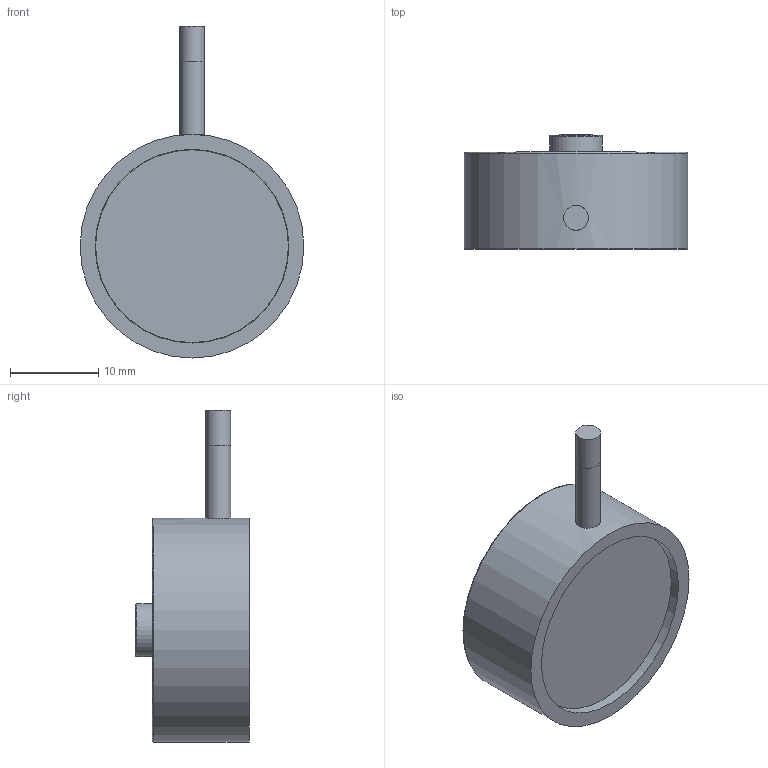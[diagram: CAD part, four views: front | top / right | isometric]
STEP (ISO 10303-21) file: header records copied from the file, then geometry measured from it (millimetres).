
FILE_DESCRIPTION(/* description */ ('Alibre Inc.'),/* implementation_level */ '2;1');
FILE_NAME(/* name */ 'export0',/* time_stamp */ '2015-03-05T10:37:38+01:00',/* author */ (''),/* organization */ (''),/* preprocessor_version */ 'ST-DEVELOPER v14',/* originating_system */ 'Alibre',/* authorisation */ '');
FILE_SCHEMA (('CONFIG_CONTROL_DESIGN'));
Length unit declared in the file: centimetre
Products named in the file (7): ID_1; ID_2
Bounding box: 25.4 x 12.97 x 37.7 mm (x, y, z)
Volume: 5390.8 mm3; surface area: 4088.2 mm2
Topology: 6 solids, 6 shells, 514 faces, 1329 edges, 886 vertices
Faces by surface type: plane 336, bspline 138, cylinder 37, torus 2, sphere 1
Full cylindrical faces by diameter (mm): 2.8 x3, 6 x1, 19 x1, 20 x1, 21.9 x1, 22 x1, 25.4 x1
Entity records: 16030 total; most frequent: CARTESIAN_POINT 4024, ORIENTED_EDGE 2628, DIRECTION 1539, EDGE_CURVE 1314, VECTOR 966, LINE 966, VERTEX_POINT 882, EDGE_LOOP 580
